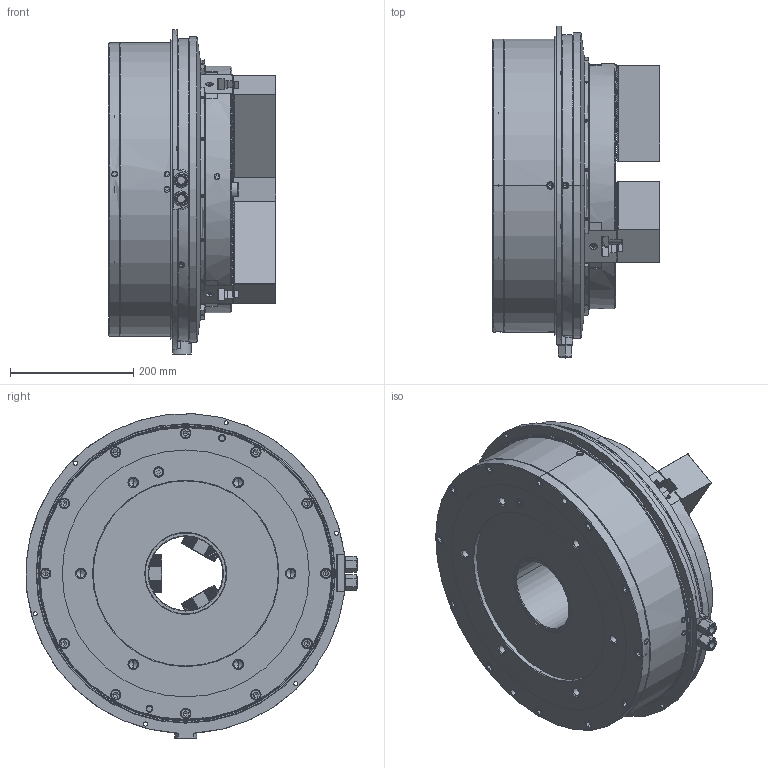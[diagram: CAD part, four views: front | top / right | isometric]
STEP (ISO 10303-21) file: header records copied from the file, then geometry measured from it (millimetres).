
FILE_DESCRIPTION (( 'STEP AP214' ), '1' );
FILE_NAME ('DEV-UVE400K-HOL.STEP', '2024-10-03T05:57:56', ( '' ), ( '' ), 'SwSTEP 2.0', 'SolidWorks 2022', '' );
FILE_SCHEMA (( 'AUTOMOTIVE_DESIGN' ));
Length unit declared in the file: millimetre
Products named in the file (6): Part1^DEV-UVE400K-クミタテ; DEV-UVE400K-HOL; Copy of 61P862639^DEV-UVE400K-クミタテ; Copy of 61P401355^DEV-UVE400K-クミタテ; Copy of 0030120045^DEV-UVE400K-クミタテ; Copy of 0693000003^DEV-UVE400K-クミタテ
Assembly tree (18 placements, depth 2):
  DEV-UVE400K-HOL
    Copy of 61P401355^DEV-UVE400K-クミタテ  x6
    Copy of 61P862639^DEV-UVE400K-クミタテ  x3
    Copy of 0030120045^DEV-UVE400K-クミタテ  x6
    Copy of 0693000003^DEV-UVE400K-クミタテ  x2
    Part1^DEV-UVE400K-クミタテ
Bounding box: 271.51 x 537.7 x 525.69 mm (x, y, z)
Volume: 32304242.5 mm3; surface area: 1262306.6 mm2
Topology: 20 solids, 50 shells, 5620 faces, 15593 edges, 10180 vertices
Faces by surface type: plane 3424, cylinder 1289, cone 632, bspline 212, torus 43, sphere 20
Entity records: 154744 total; most frequent: CARTESIAN_POINT 43175, ORIENTED_EDGE 24246, DIRECTION 21477, EDGE_CURVE 12123, LINE 8211, VECTOR 8211, VERTEX_POINT 7978, AXIS2_PLACEMENT_3D 6633
